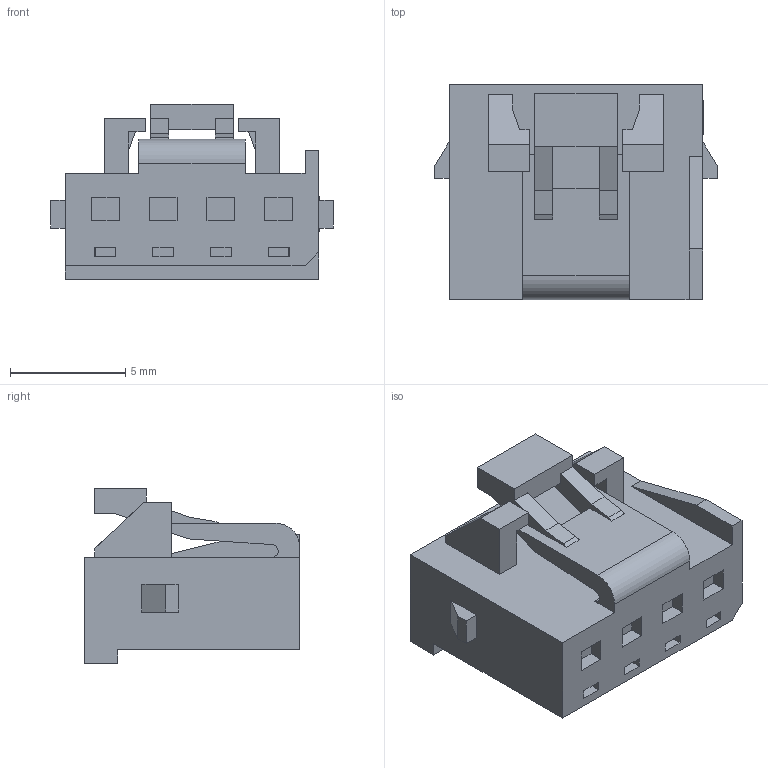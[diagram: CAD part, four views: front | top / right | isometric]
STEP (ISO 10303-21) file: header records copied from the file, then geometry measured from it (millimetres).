
FILE_DESCRIPTION((''),'2;1');
FILE_NAME('2078410004','2020-12-31T',('gga'),(''),'PRO/ENGINEER BY PARAMETRIC TECHNOLOGY CORPORATION, 2016010','PRO/ENGINEER BY PARAMETRIC TECHNOLOGY CORPORATION, 2016010','');
FILE_SCHEMA(('CONFIG_CONTROL_DESIGN'));
Length unit declared in the file: millimetre
Products named in the file (1): 2078410004
Bounding box: 12.23 x 9.35 x 7.59 mm (x, y, z)
Volume: 451.2 mm3; surface area: 573.2 mm2
Topology: 1 solids, 1 shells, 160 faces, 424 edges, 282 vertices
Faces by surface type: plane 155, extrusion 3, cylinder 2
Entity records: 4922 total; most frequent: CARTESIAN_POINT 899, ORIENTED_EDGE 848, DIRECTION 741, EDGE_CURVE 424, VECTOR 417, LINE 414, VERTEX_POINT 282, EDGE_LOOP 178
